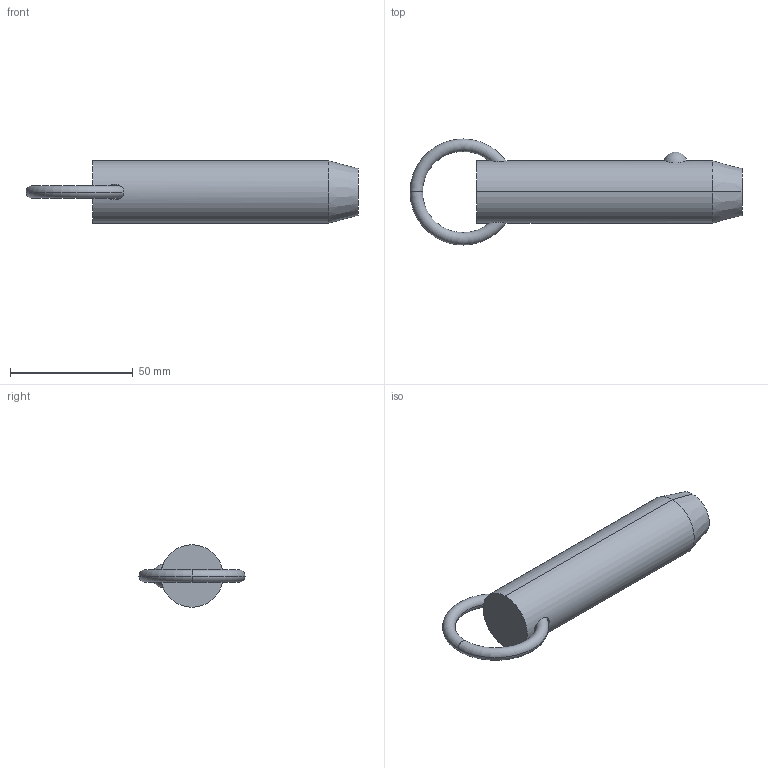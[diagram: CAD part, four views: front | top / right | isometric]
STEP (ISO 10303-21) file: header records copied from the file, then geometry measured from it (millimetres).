
FILE_DESCRIPTION (( 'STEP AP203' ), '1' );
FILE_NAME ('33010.W1025.step', '2024-11-01T10:47:36', ( '' ), ( '' ), 'SwSTEP 2.0', 'SolidWorks 2019', '' );
FILE_SCHEMA (( 'CONFIG_CONTROL_DESIGN' ));
Length unit declared in the file: millimetre
Products named in the file (3): Part1_33010.W1025; Part2_33010.W1025; 33010.W1025
Assembly tree (2 placements, depth 2):
  33010.W1025
    Part1_33010.W1025
    Part2_33010.W1025
Bounding box: 135.08 x 43.18 x 25.4 mm (x, y, z)
Volume: 55034.8 mm3; surface area: 11738.5 mm2
Topology: 2 solids, 2 shells, 18 faces, 37 edges, 22 vertices
Faces by surface type: torus 8, plane 4, sphere 2, cone 2, cylinder 2
Entity records: 975 total; most frequent: CARTESIAN_POINT 280, DIRECTION 100, ORIENTED_EDGE 74, AXIS2_PLACEMENT_3D 48, EDGE_CURVE 37, PERSON_AND_ORGANIZATION 26, CIRCLE 25, VERTEX_POINT 22
